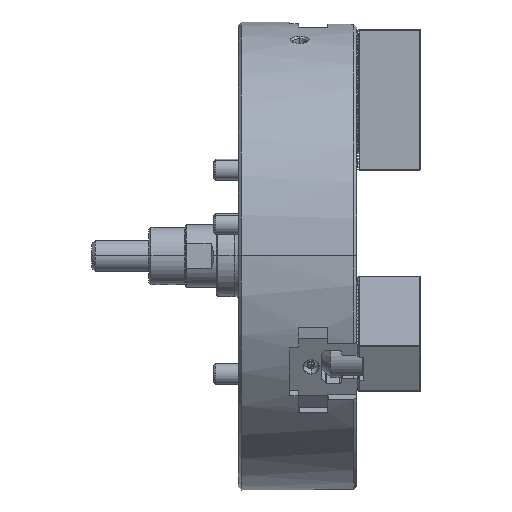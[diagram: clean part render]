
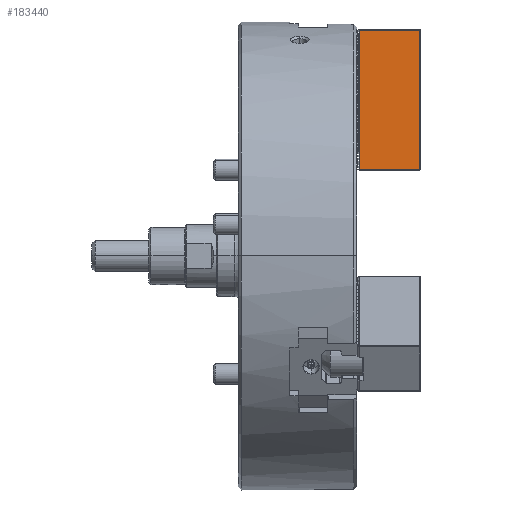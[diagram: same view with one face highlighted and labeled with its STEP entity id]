
A CAD part, top view. The second image highlights one B-rep face of the part: STEP entity #183440.
In plain terms, the highlighted planar face has unit normal (0, 0, 1).
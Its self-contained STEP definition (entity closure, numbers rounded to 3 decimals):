
#634 = LINE ( 'NONE', #110798, #187605 ) ;
#5168 = CARTESIAN_POINT ( 'NONE',  ( 60., 0.6, 25. ) ) ;
#18450 = LINE ( 'NONE', #142970, #185405 ) ;
#20353 = DIRECTION ( 'NONE',  ( 0., 1., 0. ) ) ;
#21351 = CARTESIAN_POINT ( 'NONE',  ( 1.4, 0., 25. ) ) ;
#25297 = DIRECTION ( 'NONE',  ( -1., 0., 0. ) ) ;
#31051 = EDGE_LOOP ( 'NONE', ( #106912, #129921, #72971, #179359 ) ) ;
#34926 = VECTOR ( 'NONE', #25297, 1000. ) ;
#37808 = FACE_OUTER_BOUND ( 'NONE', #31051, .T. ) ;
#62893 = DIRECTION ( 'NONE',  ( -1., 0., 0. ) ) ;
#66672 = EDGE_CURVE ( 'NONE', #197917, #172845, #177473, .T. ) ;
#70238 = LINE ( 'NONE', #165105, #34926 ) ;
#72971 = ORIENTED_EDGE ( 'NONE', *, *, #74809, .T. ) ;
#74809 = EDGE_CURVE ( 'NONE', #192592, #172845, #634, .T. ) ;
#97134 = EDGE_CURVE ( 'NONE', #121714, #192592, #18450, .T. ) ;
#106912 = ORIENTED_EDGE ( 'NONE', *, *, #143836, .F. ) ;
#110798 = CARTESIAN_POINT ( 'NONE',  ( 60., 134.4, 25. ) ) ;
#115354 = DIRECTION ( 'NONE',  ( 0., 1., 0. ) ) ;
#117518 = VECTOR ( 'NONE', #20353, 1000. ) ;
#121714 = VERTEX_POINT ( 'NONE', #126333 ) ;
#126333 = CARTESIAN_POINT ( 'NONE',  ( 59.4, 0.6, 25. ) ) ;
#129921 = ORIENTED_EDGE ( 'NONE', *, *, #97134, .T. ) ;
#142970 = CARTESIAN_POINT ( 'NONE',  ( 59.4, 134.4, 25. ) ) ;
#143836 = EDGE_CURVE ( 'NONE', #121714, #197917, #70238, .T. ) ;
#146996 = DIRECTION ( 'NONE',  ( 0., 0., -1. ) ) ;
#158725 = CARTESIAN_POINT ( 'NONE',  ( 59.4, 134.4, 25. ) ) ;
#162430 = AXIS2_PLACEMENT_3D ( 'NONE', #5168, #146996, #115354 ) ;
#164315 = PLANE ( 'NONE',  #162430 ) ;
#165105 = CARTESIAN_POINT ( 'NONE',  ( 60., 0.6, 25. ) ) ;
#166066 = CARTESIAN_POINT ( 'NONE',  ( 1.4, 134.4, 25. ) ) ;
#172845 = VERTEX_POINT ( 'NONE', #166066 ) ;
#177473 = LINE ( 'NONE', #21351, #117518 ) ;
#179359 = ORIENTED_EDGE ( 'NONE', *, *, #66672, .F. ) ;
#181718 = CARTESIAN_POINT ( 'NONE',  ( 1.4, 0.6, 25. ) ) ;
#183440 = ADVANCED_FACE ( 'NONE', ( #37808 ), #164315, .F. ) ;
#185405 = VECTOR ( 'NONE', #186843, 1000. ) ;
#186843 = DIRECTION ( 'NONE',  ( 0., 1., 0. ) ) ;
#187605 = VECTOR ( 'NONE', #62893, 1000. ) ;
#192592 = VERTEX_POINT ( 'NONE', #158725 ) ;
#197917 = VERTEX_POINT ( 'NONE', #181718 ) ;
